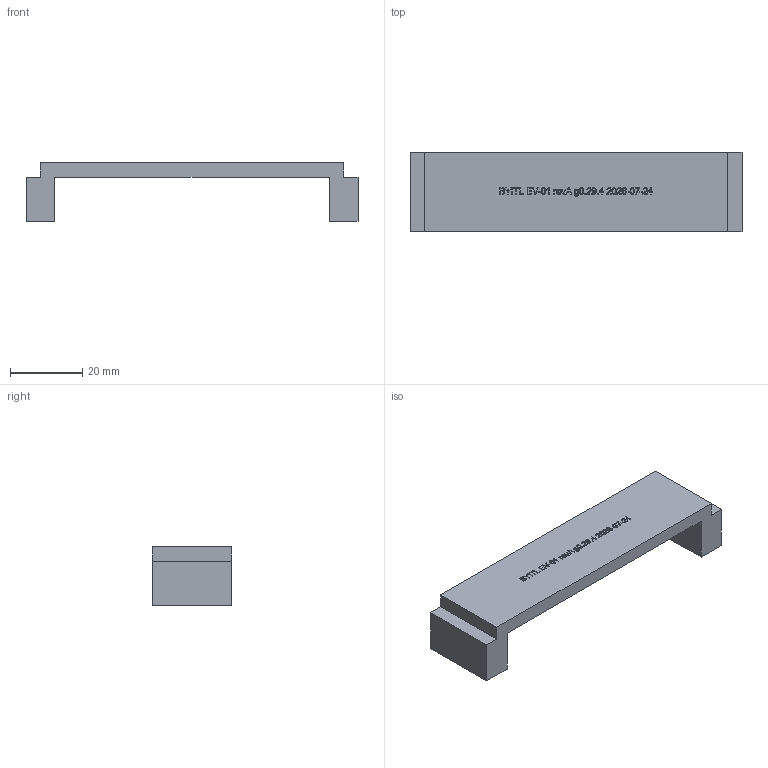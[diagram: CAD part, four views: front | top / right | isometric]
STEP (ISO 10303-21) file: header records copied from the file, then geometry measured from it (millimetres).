
FILE_DESCRIPTION(('Open CASCADE Model'),'2;1');
FILE_NAME('Open CASCADE Shape Model','2026-07-24T14:41:33',('Author'),( 'Open CASCADE'),'Open CASCADE STEP processor 7.9','build123d', 'Unknown');
FILE_SCHEMA(('AUTOMOTIVE_DESIGN { 1 0 10303 214 1 1 1 1 }'));
Length unit declared in the file: millimetre
Products named in the file (1): COMPOUND
Bounding box: 92 x 22 x 16.2 mm (x, y, z)
Volume: 11584.8 mm3; surface area: 6522.6 mm2
Topology: 1 solids, 1 shells, 523 faces, 1425 edges, 950 vertices
Faces by surface type: extrusion 299, plane 222, cylinder 2
Full cylindrical faces by diameter (mm): 3.5 x2
Entity records: 39427 total; most frequent: CARTESIAN_POINT 14116, DIRECTION 3209, ORIENTED_EDGE 2850, PCURVE 2850, DEFINITIONAL_REPRESENTATION 2850, VECTOR 2747, LINE 2448, B_SPLINE_CURVE_WITH_KNOTS 2118
